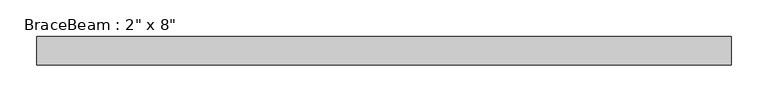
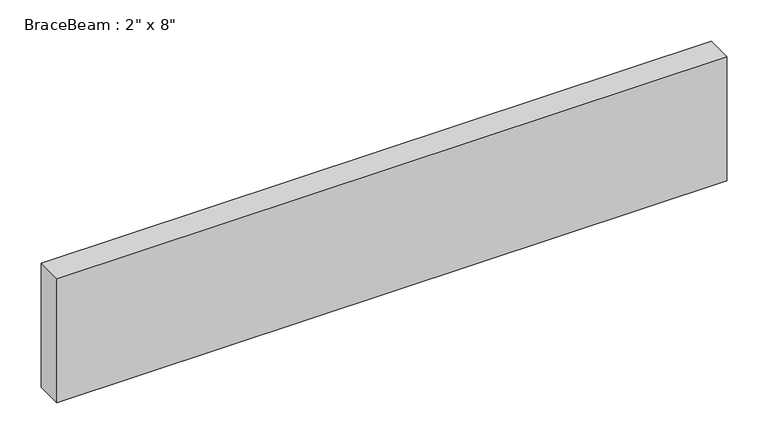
"""IFC4 building model written with IfcOpenShell, lengths in millimetres: beam geometry."""

from ifc_helpers import new_model, si_unit, frame, origin, place, context, project, spatial, polyline, outline, extrude, source, transform, mapped, element, save


def beam_e4510ef5(model_context):
    return source(origin(), model_context, "Body", "SweptSolid", [
        extrude(outline(polyline([(-469.9, -19.05), (-469.9, 19.05), (469.9, 19.05), (469.9, -19.05), (-469.9, -19.05)])), frame((0.0, 0.0, -92.075), z_axis=(0.0, 0.0, 1.0), x_axis=(1.0, 0.0, 0.0)), (0.0, 0.0, 1.0), 184.15),
    ])


if __name__ == "__main__":
    model = new_model("IFC4")
    model_context = context("Model", 3, world=origin())
    ifc_project = project(units=[si_unit("LENGTHUNIT", "METRE", prefix="MILLI")], contexts=[model_context])
    site = spatial("IfcSite", under=ifc_project)
    building = spatial("IfcBuilding", under=site)
    placement = place(None, origin())
    beam_shape = beam_e4510ef5(model_context)
    element("IfcBeam", 1, ObjectType="BraceBeam : 2\" x 8\"", at=placement, inside=building, context=model_context, shape_type="MappedRepresentation", body=[
        mapped(beam_shape, transform((0.0, 0.0, 0.0), x_axis=(1.0, 0.0, 0.0), y_axis=(0.0, 1.0, 0.0), z_axis=(0.0, 0.0, 1.0))),
    ])
    save(model, "model.ifc")
